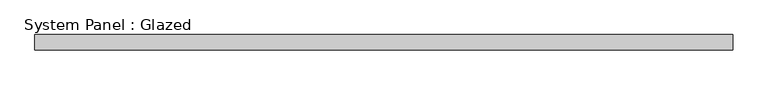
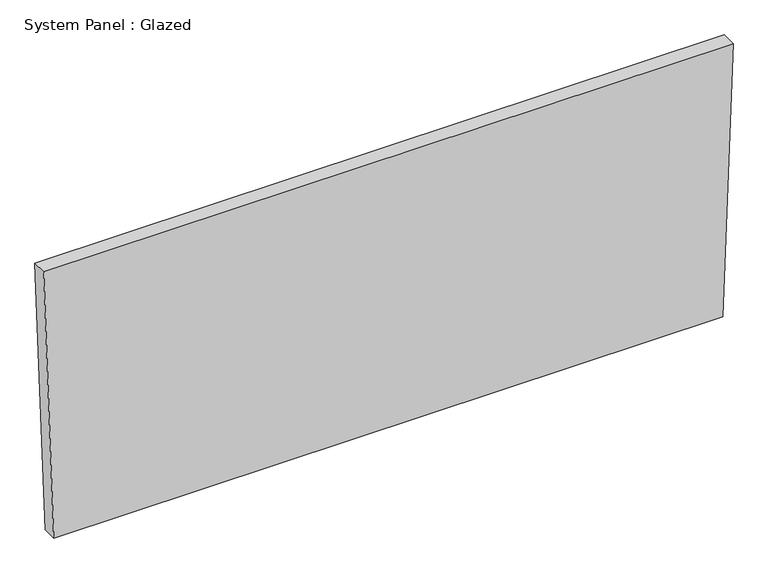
"""IFC4 building model written with IfcOpenShell, lengths in millimetres: plate geometry, System Panel : Glazed."""

from ifc_helpers import new_model, si_unit, frame, origin, place, context, project, spatial, polyline, outline, extrude, source, transform, mapped, element, save


def system_panel_glazed_ed3aa00e(model_context):
    return source(origin(), model_context, "Body", "SweptSolid", [
        extrude(outline(polyline([(0.0, -565.6023122), (0.0, 565.6023122), (482.2788884, 582.6594681), (482.2788884, -582.6594681), (0.0, -565.6023122)])), frame((0.0, -44.45, 0.0), z_axis=(0.0, 1.0, 0.0), x_axis=(0.0, 0.0, 1.0)), (0.0, 0.0, 1.0), 25.4),
    ])


if __name__ == "__main__":
    model = new_model("IFC4")
    model_context = context("Model", 3, world=origin())
    ifc_project = project(units=[si_unit("LENGTHUNIT", "METRE", prefix="MILLI")], contexts=[model_context])
    site = spatial("IfcSite", under=ifc_project)
    building = spatial("IfcBuilding", under=site)
    placement = place(None, origin())
    system_panel_glazed_shape = system_panel_glazed_ed3aa00e(model_context)
    element("IfcPlate", 1, ObjectType="System Panel : Glazed", at=placement, inside=building, context=model_context, shape_type="MappedRepresentation", body=[
        mapped(system_panel_glazed_shape, transform((0.0, 0.0, 0.0), x_axis=(1.0, 0.0, 0.0), y_axis=(0.0, 1.0, 0.0), z_axis=(0.0, 0.0, 1.0))),
    ])
    save(model, "model.ifc")
